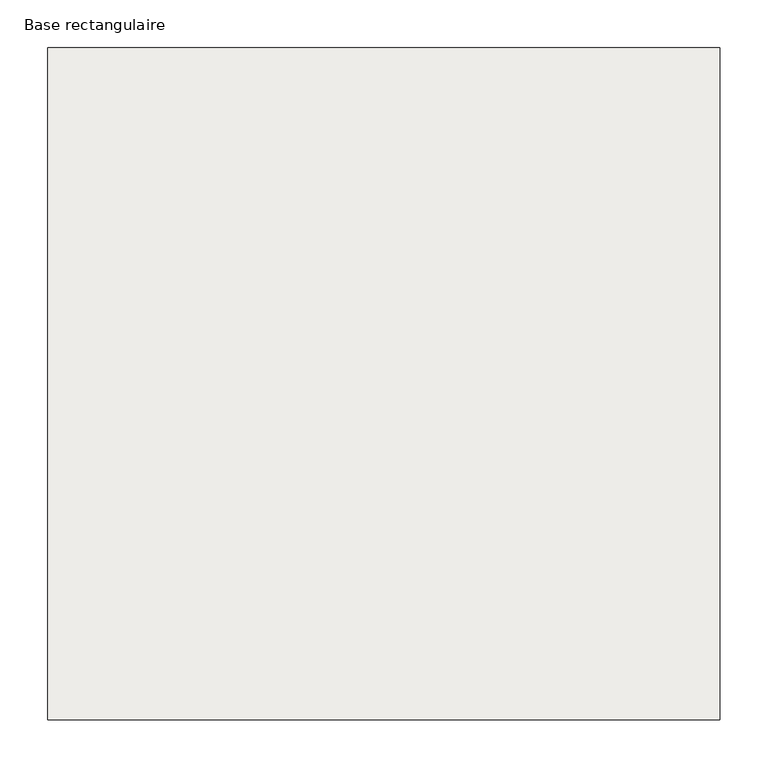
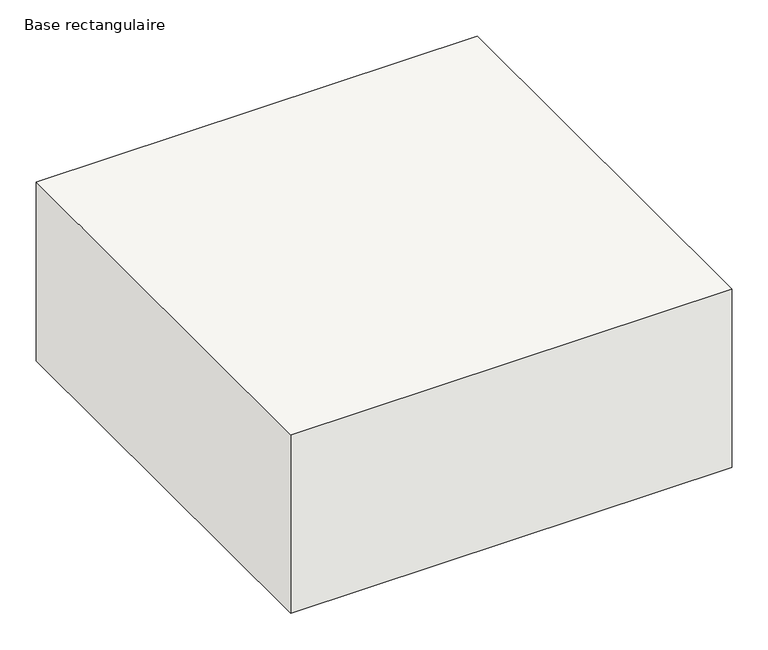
"""IFC4 building model written with IfcOpenShell, lengths in millimetres: slab geometry, Base rectangulaire : FREYS 70x70x30 C25/30."""

from ifc_helpers import new_model, si_unit, frame, origin, place, context, project, spatial, polyline, outline, extrude, source, transform, mapped, element, save


def base_rectangulaire_4c619bbc(model_context):
    return source(origin(), model_context, "Body", "SweptSolid", [
        extrude(outline(polyline([(350.0, 350.0), (350.0, -350.0), (-350.0, -350.0), (-350.0, 350.0), (350.0, 350.0)])), frame((0.0, 0.0, -300.0), z_axis=(0.0, 0.0, 1.0), x_axis=(1.0, 0.0, 0.0)), (0.0, 0.0, 1.0), 300.0),
        extrude(outline(polyline([(350.0, 350.0), (350.0, -350.0), (-350.0, -350.0), (-350.0, 350.0), (350.0, 350.0)])), frame((0.0, 0.0, -300.0), z_axis=(0.0, 0.0, 1.0), x_axis=(1.0, 0.0, 0.0)), (0.0, 0.0, 1.0), 300.0),
    ])


if __name__ == "__main__":
    model = new_model("IFC4")
    model_context = context("Model", 3, world=origin())
    ifc_project = project(units=[si_unit("LENGTHUNIT", "METRE", prefix="MILLI")], contexts=[model_context])
    site = spatial("IfcSite", under=ifc_project)
    building = spatial("IfcBuilding", under=site)
    placement = place(None, origin())
    base_rectangulaire_shape = base_rectangulaire_4c619bbc(model_context)
    element("IfcSlab", 1, ObjectType="Base rectangulaire : FREYS 70x70x30 C25/30", at=placement, inside=building, context=model_context, shape_type="MappedRepresentation", body=[
        mapped(base_rectangulaire_shape, transform((0.0, 0.0, 0.0), x_axis=(1.0, 0.0, 0.0), y_axis=(0.0, 1.0, 0.0), z_axis=(0.0, 0.0, 1.0))),
    ])
    save(model, "model.ifc")
